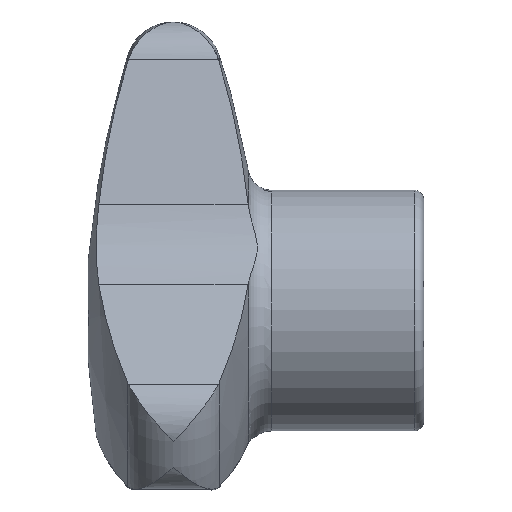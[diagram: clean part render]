
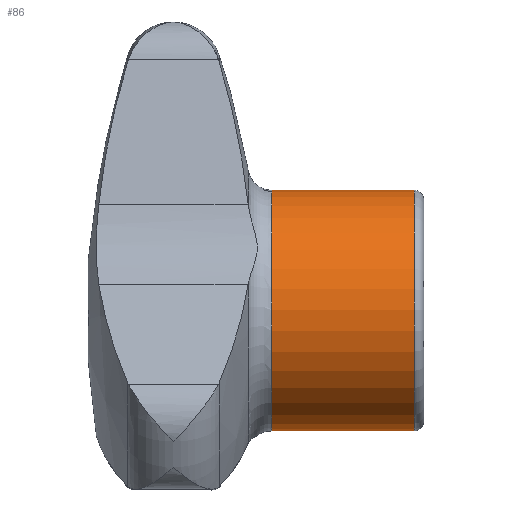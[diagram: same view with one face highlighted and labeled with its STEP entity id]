
A CAD part, top view. The second image highlights one B-rep face of the part: STEP entity #86.
In plain terms, the highlighted cylindrical face has radius 12.5 mm (diameter 25 mm), a full revolution.
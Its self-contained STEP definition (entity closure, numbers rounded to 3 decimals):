
#23 = EDGE_LOOP ( 'NONE', ( #841 ) ) ;
#74 = CIRCLE ( 'NONE', #542, 12.5 ) ;
#86 = ADVANCED_FACE ( 'NONE', ( #809, #523 ), #1170, .T. ) ;
#201 = VERTEX_POINT ( 'NONE', #1174 ) ;
#237 = CIRCLE ( 'NONE', #1190, 12.5 ) ;
#310 = CARTESIAN_POINT ( 'NONE',  ( -15.782, 0., 0. ) ) ;
#339 = DIRECTION ( 'NONE',  ( 0., 1., 0. ) ) ;
#393 = DIRECTION ( 'NONE',  ( 1., 0., 0. ) ) ;
#423 = EDGE_LOOP ( 'NONE', ( #730 ) ) ;
#431 = CARTESIAN_POINT ( 'NONE',  ( -1., 0., 0. ) ) ;
#514 = CARTESIAN_POINT ( 'NONE',  ( -15.782, 12.5, 0. ) ) ;
#523 = FACE_OUTER_BOUND ( 'NONE', #23, .T. ) ;
#531 = DIRECTION ( 'NONE',  ( 1., 0., 0. ) ) ;
#542 = AXIS2_PLACEMENT_3D ( 'NONE', #431, #531, #339 ) ;
#624 = DIRECTION ( 'NONE',  ( 1., 0., 0. ) ) ;
#705 = EDGE_CURVE ( 'NONE', #1195, #1195, #237, .T. ) ;
#716 = DIRECTION ( 'NONE',  ( 0., 1., 0. ) ) ;
#730 = ORIENTED_EDGE ( 'NONE', *, *, #705, .T. ) ;
#755 = EDGE_CURVE ( 'NONE', #201, #201, #74, .T. ) ;
#809 = FACE_OUTER_BOUND ( 'NONE', #423, .T. ) ;
#841 = ORIENTED_EDGE ( 'NONE', *, *, #755, .F. ) ;
#996 = CARTESIAN_POINT ( 'NONE',  ( 0., 0., 0. ) ) ;
#1105 = AXIS2_PLACEMENT_3D ( 'NONE', #996, #393, #1205 ) ;
#1170 = CYLINDRICAL_SURFACE ( 'NONE', #1105, 12.5 ) ;
#1174 = CARTESIAN_POINT ( 'NONE',  ( -1., 12.5, 0. ) ) ;
#1190 = AXIS2_PLACEMENT_3D ( 'NONE', #310, #624, #716 ) ;
#1195 = VERTEX_POINT ( 'NONE', #514 ) ;
#1205 = DIRECTION ( 'NONE',  ( 0., 1., 0. ) ) ;
